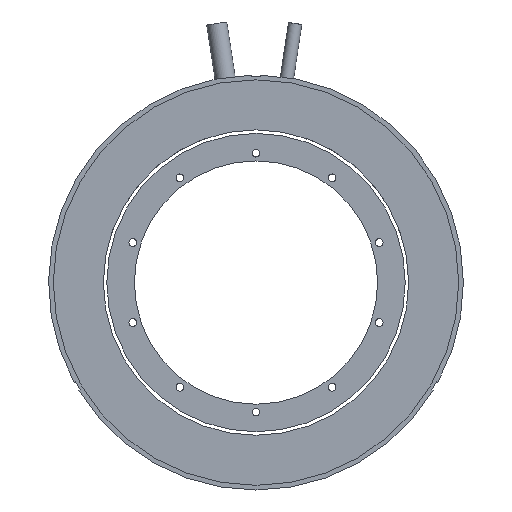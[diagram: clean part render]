
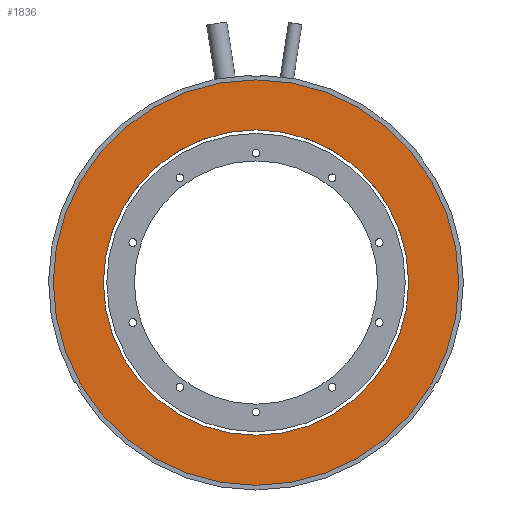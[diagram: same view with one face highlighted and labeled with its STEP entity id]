
A CAD part, front view. The second image highlights one B-rep face of the part: STEP entity #1836.
In plain terms, the highlighted planar face has unit normal (0, -1, 0) as drawn and (0, 0, -1) by its records, which use the part's own axes.
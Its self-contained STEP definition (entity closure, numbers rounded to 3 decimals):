
#132 = DIRECTION ( 'NONE',  ( 0., 0., 1. ) ) ;
#155 = FACE_OUTER_BOUND ( 'NONE', #2196, .T. ) ;
#185 = FACE_BOUND ( 'NONE', #877, .T. ) ;
#203 = DIRECTION ( 'NONE',  ( 1., 0., 0. ) ) ;
#252 = EDGE_CURVE ( 'NONE', #511, #1939, #656, .T. ) ;
#276 = CARTESIAN_POINT ( 'NONE',  ( 0., 0., 0. ) ) ;
#292 = CARTESIAN_POINT ( 'NONE',  ( 65., 0., 0. ) ) ;
#392 = AXIS2_PLACEMENT_3D ( 'NONE', #1865, #786, #590 ) ;
#396 = EDGE_CURVE ( 'NONE', #734, #978, #1973, .T. ) ;
#475 = AXIS2_PLACEMENT_3D ( 'NONE', #276, #132, #1536 ) ;
#511 = VERTEX_POINT ( 'NONE', #1437 ) ;
#518 = PLANE ( 'NONE',  #840 ) ;
#590 = DIRECTION ( 'NONE',  ( 1., 0., 0. ) ) ;
#610 = CARTESIAN_POINT ( 'NONE',  ( 0., 0., 0. ) ) ;
#656 = CIRCLE ( 'NONE', #392, 48.95 ) ;
#701 = DIRECTION ( 'NONE',  ( 0., 0., 1. ) ) ;
#734 = VERTEX_POINT ( 'NONE', #292 ) ;
#738 = AXIS2_PLACEMENT_3D ( 'NONE', #610, #1873, #820 ) ;
#774 = CARTESIAN_POINT ( 'NONE',  ( -65., 0., 0. ) ) ;
#786 = DIRECTION ( 'NONE',  ( 0., 0., 1. ) ) ;
#805 = AXIS2_PLACEMENT_3D ( 'NONE', #1989, #701, #203 ) ;
#820 = DIRECTION ( 'NONE',  ( 1., 0., 0. ) ) ;
#840 = AXIS2_PLACEMENT_3D ( 'NONE', #2306, #2160, #893 ) ;
#877 = EDGE_LOOP ( 'NONE', ( #2027, #1523 ) ) ;
#888 = CIRCLE ( 'NONE', #475, 48.95 ) ;
#893 = DIRECTION ( 'NONE',  ( 0., -1., 0. ) ) ;
#906 = ORIENTED_EDGE ( 'NONE', *, *, #2212, .F. ) ;
#908 = ORIENTED_EDGE ( 'NONE', *, *, #396, .F. ) ;
#978 = VERTEX_POINT ( 'NONE', #774 ) ;
#1099 = EDGE_CURVE ( 'NONE', #1939, #511, #888, .T. ) ;
#1437 = CARTESIAN_POINT ( 'NONE',  ( -48.95, 0., 0. ) ) ;
#1479 = CIRCLE ( 'NONE', #738, 65. ) ;
#1523 = ORIENTED_EDGE ( 'NONE', *, *, #252, .T. ) ;
#1536 = DIRECTION ( 'NONE',  ( 1., 0., 0. ) ) ;
#1836 = ADVANCED_FACE ( 'NONE', ( #185, #155 ), #518, .T. ) ;
#1865 = CARTESIAN_POINT ( 'NONE',  ( 0., 0., 0. ) ) ;
#1873 = DIRECTION ( 'NONE',  ( 0., 0., 1. ) ) ;
#1939 = VERTEX_POINT ( 'NONE', #2312 ) ;
#1973 = CIRCLE ( 'NONE', #805, 65. ) ;
#1989 = CARTESIAN_POINT ( 'NONE',  ( 0., 0., 0. ) ) ;
#2027 = ORIENTED_EDGE ( 'NONE', *, *, #1099, .T. ) ;
#2160 = DIRECTION ( 'NONE',  ( 0., 0., -1. ) ) ;
#2196 = EDGE_LOOP ( 'NONE', ( #908, #906 ) ) ;
#2212 = EDGE_CURVE ( 'NONE', #978, #734, #1479, .T. ) ;
#2306 = CARTESIAN_POINT ( 'NONE',  ( 65., 0., 0. ) ) ;
#2312 = CARTESIAN_POINT ( 'NONE',  ( 48.95, 0., 0. ) ) ;
